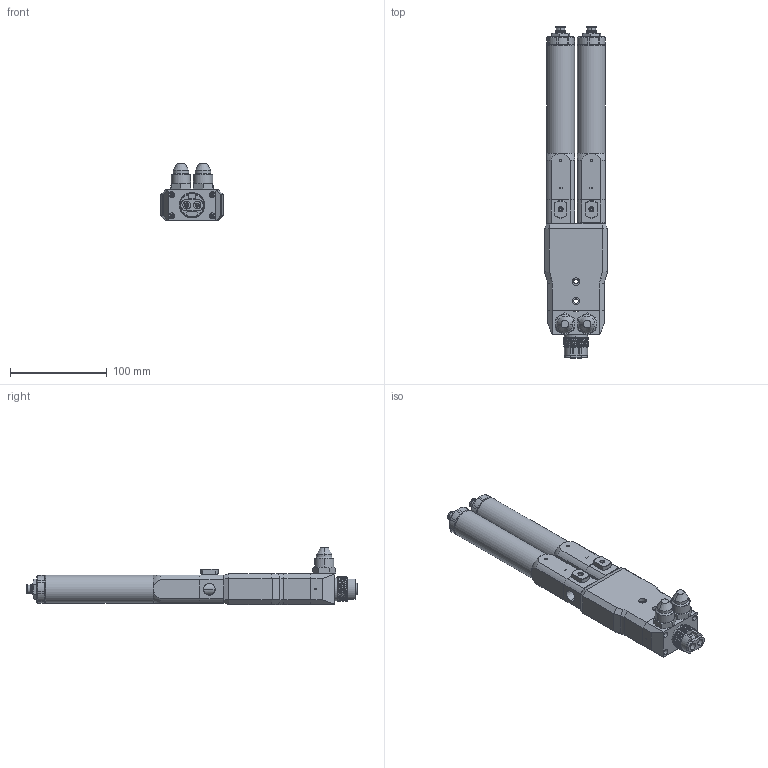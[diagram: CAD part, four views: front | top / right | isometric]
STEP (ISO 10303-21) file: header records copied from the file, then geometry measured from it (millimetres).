
FILE_DESCRIPTION (( 'STEP AP214' ), '1' );
FILE_NAME ('PDP-1000-150FA.STEP', '2024-10-11T12:19:01', ( '' ), ( '' ), 'SwSTEP 2.0', 'SolidWorks 2024', '' );
FILE_SCHEMA (( 'AUTOMOTIVE_DESIGN' ));
Length unit declared in the file: millimetre
Products named in the file (1): PDP-1000-150FA
Bounding box: 65 x 344 x 59.3 mm (x, y, z)
Volume: 507587.4 mm3; surface area: 118840.7 mm2
Topology: 12 solids, 12 shells, 1261 faces, 3121 edges, 1970 vertices
Faces by surface type: plane 471, cylinder 443, cone 295, bspline 32, torus 12, sphere 8
Full cylindrical faces by diameter (mm): 29 x2
Entity records: 63166 total; most frequent: CARTESIAN_POINT 33776, ORIENTED_EDGE 6186, DIRECTION 5993, EDGE_CURVE 3093, AXIS2_PLACEMENT_3D 2341, VERTEX_POINT 1970, EDGE_LOOP 1413, LINE 1311
